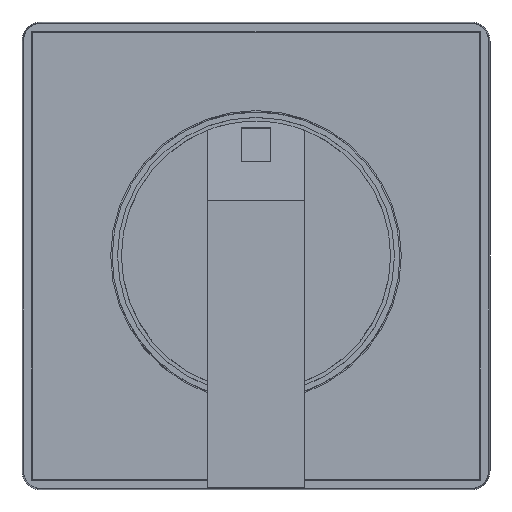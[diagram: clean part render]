
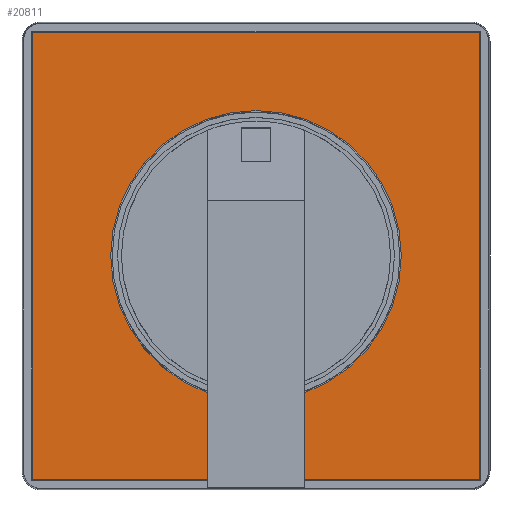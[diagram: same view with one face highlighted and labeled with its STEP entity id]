
A CAD part, top view. The second image highlights one B-rep face of the part: STEP entity #20811.
In plain terms, the highlighted planar face has unit normal (0, 0, 1).
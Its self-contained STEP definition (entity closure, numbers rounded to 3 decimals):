
#10982=FACE_BOUND('',#24469,.T.);
#10983=FACE_BOUND('',#24470,.T.);
#11629=PLANE('',#48486);
#14458=LINE('',#68383,#18005);
#14462=LINE('',#68391,#18009);
#14466=LINE('',#68399,#18013);
#14468=LINE('',#68406,#18015);
#18005=VECTOR('',#55148,1.);
#18009=VECTOR('',#55154,1.);
#18013=VECTOR('',#55160,1.);
#18015=VECTOR('',#55170,1.);
#20811=ADVANCED_FACE('',(#10982,#10983),#11629,.T.);
#24469=EDGE_LOOP('',(#30389,#30390));
#24470=EDGE_LOOP('',(#30391,#30392,#30393,#30394));
#30389=ORIENTED_EDGE('',*,*,#42378,.F.);
#30390=ORIENTED_EDGE('',*,*,#42260,.F.);
#30391=ORIENTED_EDGE('',*,*,#42367,.T.);
#30392=ORIENTED_EDGE('',*,*,#42379,.T.);
#30393=ORIENTED_EDGE('',*,*,#42375,.T.);
#30394=ORIENTED_EDGE('',*,*,#42371,.T.);
#37908=VERTEX_POINT('',#68074);
#37910=VERTEX_POINT('',#68078);
#37995=VERTEX_POINT('',#68382);
#37996=VERTEX_POINT('',#68384);
#37999=VERTEX_POINT('',#68392);
#38002=VERTEX_POINT('',#68400);
#42260=EDGE_CURVE('',#37910,#37908,#46022,.T.);
#42367=EDGE_CURVE('',#37996,#37995,#14458,.T.);
#42371=EDGE_CURVE('',#37999,#37996,#14462,.T.);
#42375=EDGE_CURVE('',#38002,#37999,#14466,.T.);
#42378=EDGE_CURVE('',#37908,#37910,#46071,.T.);
#42379=EDGE_CURVE('',#37995,#38002,#14468,.T.);
#46022=CIRCLE('',#48413,14.9);
#46071=CIRCLE('',#48484,14.9);
#48413=AXIS2_PLACEMENT_3D('',#68079,#54963,#54964);
#48484=AXIS2_PLACEMENT_3D('',#68404,#55166,#55167);
#48486=AXIS2_PLACEMENT_3D('',#68407,#55171,#55172);
#54963=DIRECTION('',(0.,0.,1.));
#54964=DIRECTION('',(1.,0.,0.));
#55148=DIRECTION('',(0.,1.,0.));
#55154=DIRECTION('',(1.,0.,0.));
#55160=DIRECTION('',(0.,-1.,0.));
#55166=DIRECTION('',(0.,0.,1.));
#55167=DIRECTION('',(1.,0.,0.));
#55170=DIRECTION('',(-1.,0.,0.));
#55171=DIRECTION('',(0.,0.,1.));
#55172=DIRECTION('',(1.,0.,0.));
#68074=CARTESIAN_POINT('',(14.9,0.,21.95));
#68078=CARTESIAN_POINT('',(-14.9,0.,21.95));
#68079=CARTESIAN_POINT('',(0.,0.,21.95));
#68382=CARTESIAN_POINT('',(22.9,22.9,21.95));
#68383=CARTESIAN_POINT('',(22.9,0.,21.95));
#68384=CARTESIAN_POINT('',(22.9,-22.9,21.95));
#68391=CARTESIAN_POINT('',(0.,-22.9,21.95));
#68392=CARTESIAN_POINT('',(-22.9,-22.9,21.95));
#68399=CARTESIAN_POINT('',(-22.9,0.,21.95));
#68400=CARTESIAN_POINT('',(-22.9,22.9,21.95));
#68404=CARTESIAN_POINT('',(0.,0.,21.95));
#68406=CARTESIAN_POINT('',(0.,22.9,21.95));
#68407=CARTESIAN_POINT('',(-24.045,-24.045,21.95));
